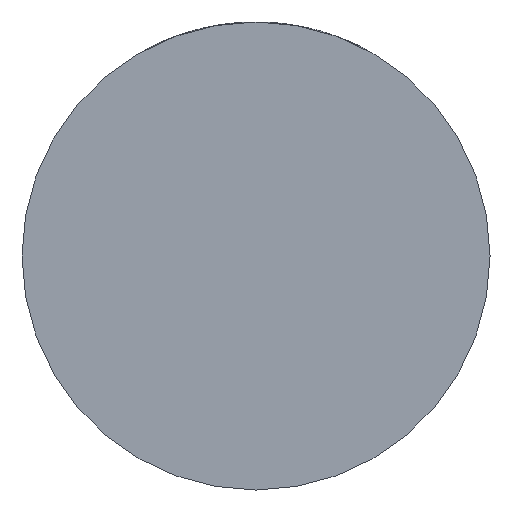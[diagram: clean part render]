
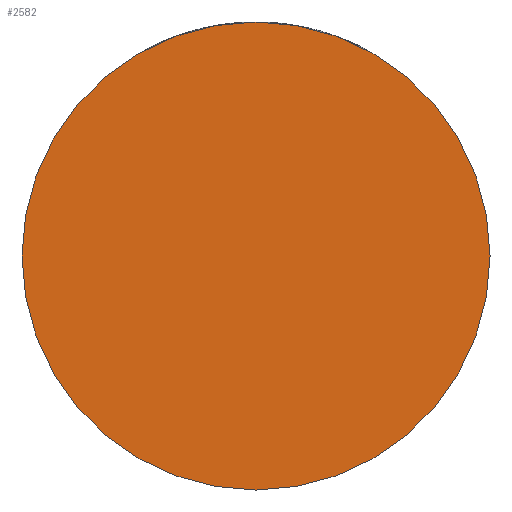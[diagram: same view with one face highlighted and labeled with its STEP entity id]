
A CAD part, front view. The second image highlights one B-rep face of the part: STEP entity #2582.
In plain terms, the highlighted planar face has unit normal (0, -1, 0).
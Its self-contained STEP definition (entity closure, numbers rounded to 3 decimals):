
#228 = CARTESIAN_POINT ( 'NONE',  ( 0., -36., 0. ) ) ;
#244 = CARTESIAN_POINT ( 'NONE',  ( 45., -36., 0. ) ) ;
#619 = EDGE_CURVE ( 'NONE', #1692, #790, #1861, .T. ) ;
#790 = VERTEX_POINT ( 'NONE', #2198 ) ;
#1070 = DIRECTION ( 'NONE',  ( 1., 0., 0. ) ) ;
#1261 = FACE_OUTER_BOUND ( 'NONE', #3030, .T. ) ;
#1692 = VERTEX_POINT ( 'NONE', #244 ) ;
#1861 = CIRCLE ( 'NONE', #2444, 45. ) ;
#1862 = DIRECTION ( 'NONE',  ( 0., -1., 0. ) ) ;
#1869 = DIRECTION ( 'NONE',  ( 0., -1., 0. ) ) ;
#2198 = CARTESIAN_POINT ( 'NONE',  ( -45., -36., 0. ) ) ;
#2422 = CARTESIAN_POINT ( 'NONE',  ( 0., -36., 0. ) ) ;
#2444 = AXIS2_PLACEMENT_3D ( 'NONE', #2422, #3803, #1070 ) ;
#2582 = ADVANCED_FACE ( 'NONE', ( #1261 ), #2617, .T. ) ;
#2617 = PLANE ( 'NONE',  #3841 ) ;
#2845 = ORIENTED_EDGE ( 'NONE', *, *, #2942, .T. ) ;
#2927 = CARTESIAN_POINT ( 'NONE',  ( 0., -36., 0. ) ) ;
#2942 = EDGE_CURVE ( 'NONE', #790, #1692, #3406, .T. ) ;
#3030 = EDGE_LOOP ( 'NONE', ( #2845, #3628 ) ) ;
#3262 = DIRECTION ( 'NONE',  ( 1., 0., 0. ) ) ;
#3280 = DIRECTION ( 'NONE',  ( 1., 0., 0. ) ) ;
#3406 = CIRCLE ( 'NONE', #3474, 45. ) ;
#3474 = AXIS2_PLACEMENT_3D ( 'NONE', #2927, #1869, #3262 ) ;
#3628 = ORIENTED_EDGE ( 'NONE', *, *, #619, .T. ) ;
#3803 = DIRECTION ( 'NONE',  ( 0., -1., 0. ) ) ;
#3841 = AXIS2_PLACEMENT_3D ( 'NONE', #228, #1862, #3280 ) ;
